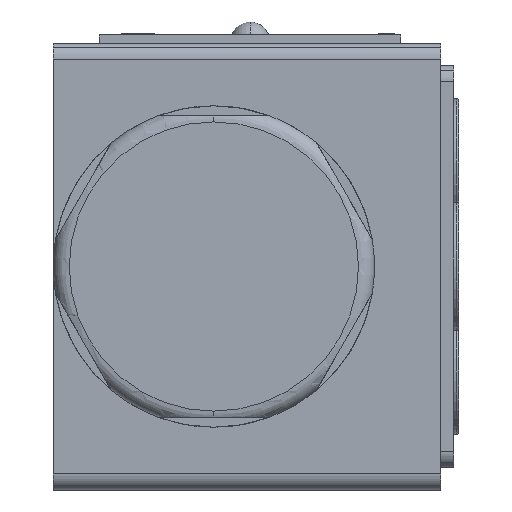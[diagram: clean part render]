
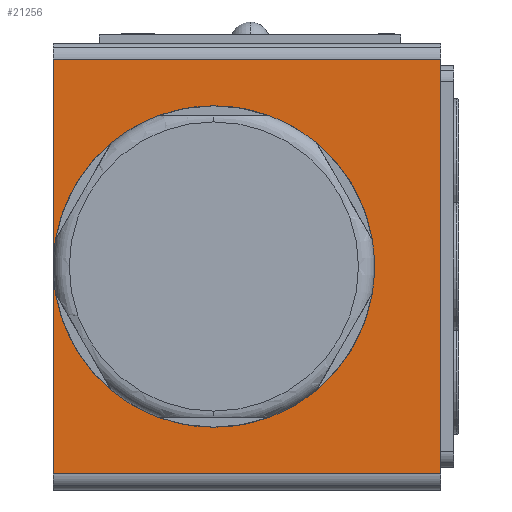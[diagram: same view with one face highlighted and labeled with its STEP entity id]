
A CAD part, left-side view. The second image highlights one B-rep face of the part: STEP entity #21256.
In plain terms, the highlighted planar face has unit normal (-1, 0, 0).
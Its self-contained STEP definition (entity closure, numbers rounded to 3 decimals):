
#111 = CARTESIAN_POINT ( 'NONE',  ( -69.5, 38.6, 40.65 ) ) ;
#430 = DIRECTION ( 'NONE',  ( 1., 0., 0. ) ) ;
#561 = LINE ( 'NONE', #5291, #21393 ) ;
#1298 = FACE_OUTER_BOUND ( 'NONE', #34231, .T. ) ;
#1706 = CARTESIAN_POINT ( 'NONE',  ( -69.5, 0., -0.65 ) ) ;
#2474 = CARTESIAN_POINT ( 'NONE',  ( -69.5, 38.6, 20. ) ) ;
#3403 = DIRECTION ( 'NONE',  ( 0., 0., -1. ) ) ;
#4267 = EDGE_CURVE ( 'NONE', #12262, #7663, #17955, .T. ) ;
#5291 = CARTESIAN_POINT ( 'NONE',  ( -69.5, 19.3, -0.65 ) ) ;
#6839 = ORIENTED_EDGE ( 'NONE', *, *, #27834, .F. ) ;
#6959 = DIRECTION ( 'NONE',  ( 0., -1., 0. ) ) ;
#7092 = CARTESIAN_POINT ( 'NONE',  ( -69.5, 38.6, -0.65 ) ) ;
#7255 = ORIENTED_EDGE ( 'NONE', *, *, #20843, .T. ) ;
#7269 = CARTESIAN_POINT ( 'NONE',  ( -69.5, 22.6, 6.75 ) ) ;
#7663 = VERTEX_POINT ( 'NONE', #7776 ) ;
#7776 = CARTESIAN_POINT ( 'NONE',  ( -69.5, 0., 40.65 ) ) ;
#8116 = CIRCLE ( 'NONE', #25961, 13.25 ) ;
#8216 = DIRECTION ( 'NONE',  ( 1., 0., 0. ) ) ;
#8406 = ORIENTED_EDGE ( 'NONE', *, *, #25531, .T. ) ;
#8686 = FACE_BOUND ( 'NONE', #31621, .T. ) ;
#9072 = VECTOR ( 'NONE', #34290, 1000. ) ;
#10740 = LINE ( 'NONE', #21403, #27890 ) ;
#11001 = DIRECTION ( 'NONE',  ( 0., 0., -1. ) ) ;
#11981 = DIRECTION ( 'NONE',  ( 1., 0., 0. ) ) ;
#12262 = VERTEX_POINT ( 'NONE', #111 ) ;
#13807 = AXIS2_PLACEMENT_3D ( 'NONE', #19198, #8216, #11001 ) ;
#15326 = EDGE_CURVE ( 'NONE', #24182, #30215, #8116, .T. ) ;
#17056 = PLANE ( 'NONE',  #22194 ) ;
#17955 = LINE ( 'NONE', #28613, #28187 ) ;
#19198 = CARTESIAN_POINT ( 'NONE',  ( -69.5, 22.6, 20. ) ) ;
#19295 = DIRECTION ( 'NONE',  ( 0., 0., 1. ) ) ;
#19336 = CARTESIAN_POINT ( 'NONE',  ( -69.5, 19.3, 20. ) ) ;
#19451 = CARTESIAN_POINT ( 'NONE',  ( -69.5, 22.6, 33.25 ) ) ;
#19850 = DIRECTION ( 'NONE',  ( 0., 0., -1. ) ) ;
#20437 = ORIENTED_EDGE ( 'NONE', *, *, #32567, .F. ) ;
#20843 = EDGE_CURVE ( 'NONE', #30215, #24182, #31665, .T. ) ;
#21190 = LINE ( 'NONE', #2474, #9072 ) ;
#21256 = ADVANCED_FACE ( 'NONE', ( #1298, #8686 ), #17056, .F. ) ;
#21393 = VECTOR ( 'NONE', #27137, 1000. ) ;
#21403 = CARTESIAN_POINT ( 'NONE',  ( -69.5, 0., 20. ) ) ;
#22194 = AXIS2_PLACEMENT_3D ( 'NONE', #19336, #11981, #19850 ) ;
#22675 = VERTEX_POINT ( 'NONE', #7092 ) ;
#24182 = VERTEX_POINT ( 'NONE', #7269 ) ;
#24840 = VERTEX_POINT ( 'NONE', #1706 ) ;
#25531 = EDGE_CURVE ( 'NONE', #24840, #7663, #10740, .T. ) ;
#25961 = AXIS2_PLACEMENT_3D ( 'NONE', #27178, #430, #3403 ) ;
#27137 = DIRECTION ( 'NONE',  ( 0., 1., 0. ) ) ;
#27178 = CARTESIAN_POINT ( 'NONE',  ( -69.5, 22.6, 20. ) ) ;
#27834 = EDGE_CURVE ( 'NONE', #24840, #22675, #561, .T. ) ;
#27890 = VECTOR ( 'NONE', #19295, 1000. ) ;
#28187 = VECTOR ( 'NONE', #6959, 1000. ) ;
#28469 = ORIENTED_EDGE ( 'NONE', *, *, #15326, .T. ) ;
#28613 = CARTESIAN_POINT ( 'NONE',  ( -69.5, 19.3, 40.65 ) ) ;
#30215 = VERTEX_POINT ( 'NONE', #19451 ) ;
#31621 = EDGE_LOOP ( 'NONE', ( #28469, #7255 ) ) ;
#31665 = CIRCLE ( 'NONE', #13807, 13.25 ) ;
#32567 = EDGE_CURVE ( 'NONE', #22675, #12262, #21190, .T. ) ;
#32869 = ORIENTED_EDGE ( 'NONE', *, *, #4267, .F. ) ;
#34231 = EDGE_LOOP ( 'NONE', ( #6839, #8406, #32869, #20437 ) ) ;
#34290 = DIRECTION ( 'NONE',  ( 0., 0., 1. ) ) ;
